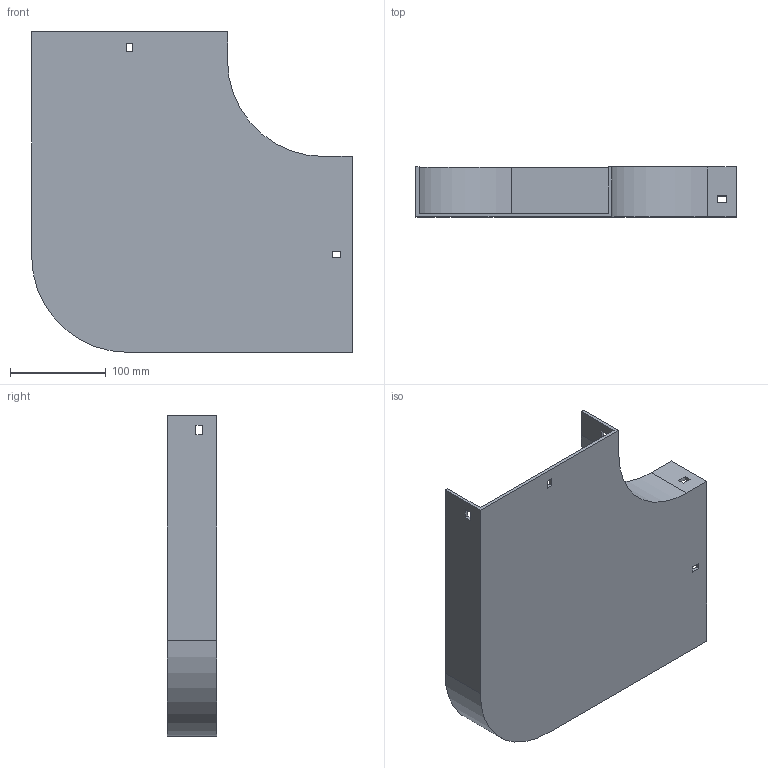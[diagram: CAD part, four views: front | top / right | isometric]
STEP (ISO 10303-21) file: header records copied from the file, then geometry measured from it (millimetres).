
FILE_DESCRIPTION (( 'STEP AP214' ), '1' );
FILE_NAME ('10F1B200.step', '2025-02-21T12:57:03', ( '' ), ( '' ), 'SwSTEP 2.0', 'SolidWorks 2023', '' );
FILE_SCHEMA (( 'AUTOMOTIVE_DESIGN' ));
Length unit declared in the file: millimetre
Products named in the file (1): 10F1B200
Bounding box: 334 x 52 x 334 mm (x, y, z)
Volume: 472863 mm3; surface area: 275955 mm2
Topology: 1 solids, 1 shells, 42 faces, 120 edges, 80 vertices
Faces by surface type: plane 38, cylinder 4
Entity records: 1399 total; most frequent: CARTESIAN_POINT 243, ORIENTED_EDGE 240, DIRECTION 214, EDGE_CURVE 120, VECTOR 112, LINE 112, VERTEX_POINT 80, EDGE_LOOP 54
